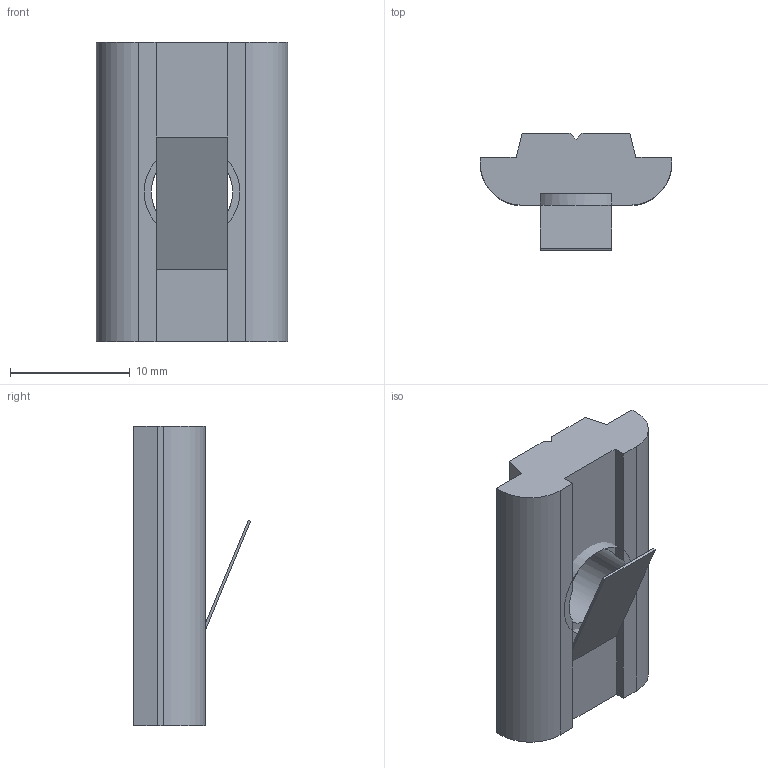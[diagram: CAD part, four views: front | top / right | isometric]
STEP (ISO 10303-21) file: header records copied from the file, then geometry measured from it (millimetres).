
FILE_DESCRIPTION((''),'2;1');
FILE_NAME('DATM0810','2002-12-27T',('Lipro doo'),('Lipro d.o.o.'),'PRO/ENGINEER BY PARAMETRIC TECHNOLOGY CORPORATION, 2001150','PRO/ENGINEER BY PARAMETRIC TECHNOLOGY CORPORATION, 2001150','');
FILE_SCHEMA(('CONFIG_CONTROL_DESIGN'));
Length unit declared in the file: millimetre
Products named in the file (1): DATM0810
Bounding box: 16 x 9.78 x 25 mm (x, y, z)
Volume: 1618.8 mm3; surface area: 1518.5 mm2
Topology: 1 solids, 2 shells, 38 faces, 114 edges, 76 vertices
Faces by surface type: plane 30, cylinder 6, cone 2
Entity records: 1325 total; most frequent: CARTESIAN_POINT 248, ORIENTED_EDGE 218, DIRECTION 206, EDGE_CURVE 114, VECTOR 84, LINE 84, VERTEX_POINT 76, AXIS2_PLACEMENT_3D 61
